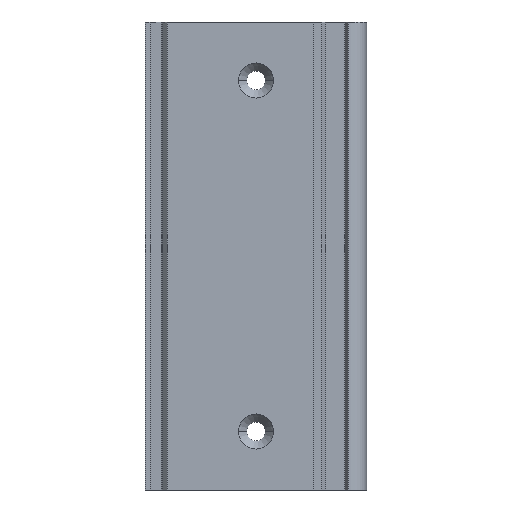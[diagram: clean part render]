
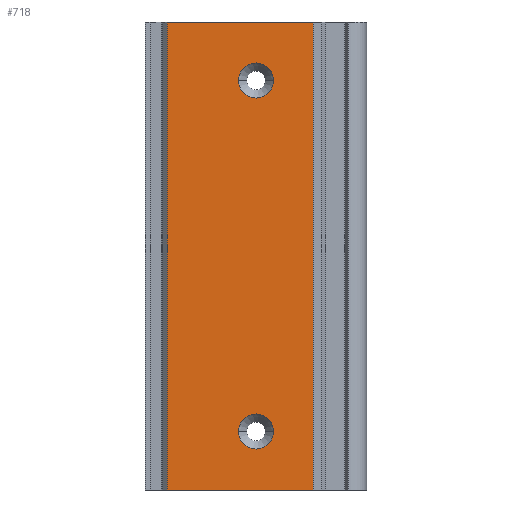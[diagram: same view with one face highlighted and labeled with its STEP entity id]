
A CAD part, left-side view. The second image highlights one B-rep face of the part: STEP entity #718.
In plain terms, the highlighted planar face has unit normal (-1, 0, 0).
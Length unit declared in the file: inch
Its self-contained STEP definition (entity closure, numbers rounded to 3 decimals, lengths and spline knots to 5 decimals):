
#79=DIRECTION('',(0.,1.,0.));
#80=VECTOR('',#79,1.2505);
#81=CARTESIAN_POINT('',(-0.08,0.455,0.));
#82=LINE('',#81,#80);
#185=DIRECTION('',(0.,0.,1.));
#186=VECTOR('',#185,4.);
#187=CARTESIAN_POINT('',(-0.08,1.7055,0.));
#188=LINE('',#187,#186);
#189=DIRECTION('',(0.,0.,1.));
#190=VECTOR('',#189,4.);
#191=CARTESIAN_POINT('',(-0.08,0.455,0.));
#192=LINE('',#191,#190);
#193=CARTESIAN_POINT('',(-0.08,0.945,0.5));
#194=DIRECTION('',(1.,0.,0.));
#195=DIRECTION('',(0.,-1.,0.));
#196=AXIS2_PLACEMENT_3D('',#193,#194,#195);
#198=CARTESIAN_POINT('',(-0.08,0.945,0.5));
#199=DIRECTION('',(1.,0.,0.));
#200=DIRECTION('',(0.,1.,0.));
#201=AXIS2_PLACEMENT_3D('',#198,#199,#200);
#203=CARTESIAN_POINT('',(-0.08,0.945,3.5));
#204=DIRECTION('',(1.,0.,0.));
#205=DIRECTION('',(0.,-1.,0.));
#206=AXIS2_PLACEMENT_3D('',#203,#204,#205);
#208=CARTESIAN_POINT('',(-0.08,0.945,3.5));
#209=DIRECTION('',(1.,0.,0.));
#210=DIRECTION('',(0.,1.,0.));
#211=AXIS2_PLACEMENT_3D('',#208,#209,#210);
#315=DIRECTION('',(0.,1.,0.));
#316=VECTOR('',#315,1.2505);
#317=CARTESIAN_POINT('',(-0.08,0.455,4.));
#318=LINE('',#317,#316);
#394=CARTESIAN_POINT('',(-0.08,0.455,0.));
#395=VERTEX_POINT('',#394);
#406=CARTESIAN_POINT('',(-0.08,0.455,4.));
#407=VERTEX_POINT('',#406);
#412=CARTESIAN_POINT('',(-0.08,1.7055,0.));
#414=VERTEX_POINT('',#412);
#420=CARTESIAN_POINT('',(-0.08,1.7055,4.));
#422=VERTEX_POINT('',#420);
#460=CARTESIAN_POINT('',(-0.08,0.795,0.5));
#461=CARTESIAN_POINT('',(-0.08,1.095,0.5));
#462=VERTEX_POINT('',#460);
#463=VERTEX_POINT('',#461);
#468=CARTESIAN_POINT('',(-0.08,0.795,3.5));
#469=CARTESIAN_POINT('',(-0.08,1.095,3.5));
#470=VERTEX_POINT('',#468);
#471=VERTEX_POINT('',#469);
#693=CARTESIAN_POINT('',(-0.08,0.455,4.));
#694=DIRECTION('',(1.,0.,0.));
#695=DIRECTION('',(0.,1.,0.));
#696=AXIS2_PLACEMENT_3D('',#693,#694,#695);
#697=PLANE('',#696);
#699=ORIENTED_EDGE('',*,*,#698,.T.);
#701=ORIENTED_EDGE('',*,*,#700,.F.);
#702=ORIENTED_EDGE('',*,*,#685,.F.);
#703=ORIENTED_EDGE('',*,*,#497,.T.);
#704=EDGE_LOOP('',(#699,#701,#702,#703));
#705=FACE_OUTER_BOUND('',#704,.F.);
#707=ORIENTED_EDGE('',*,*,#706,.F.);
#709=ORIENTED_EDGE('',*,*,#708,.F.);
#710=EDGE_LOOP('',(#707,#709));
#711=FACE_BOUND('',#710,.F.);
#713=ORIENTED_EDGE('',*,*,#712,.F.);
#715=ORIENTED_EDGE('',*,*,#714,.F.);
#716=EDGE_LOOP('',(#713,#715));
#717=FACE_BOUND('',#716,.F.);
#718=ADVANCED_FACE('',(#705,#711,#717),#697,.F.);
#197=CIRCLE('',#196,0.15);
#202=CIRCLE('',#201,0.15);
#207=CIRCLE('',#206,0.15);
#212=CIRCLE('',#211,0.15);
#497=EDGE_CURVE('',#395,#414,#82,.T.);
#685=EDGE_CURVE('',#395,#407,#192,.T.);
#698=EDGE_CURVE('',#414,#422,#188,.T.);
#700=EDGE_CURVE('',#407,#422,#318,.T.);
#706=EDGE_CURVE('',#462,#463,#197,.T.);
#708=EDGE_CURVE('',#463,#462,#202,.T.);
#712=EDGE_CURVE('',#470,#471,#207,.T.);
#714=EDGE_CURVE('',#471,#470,#212,.T.);
